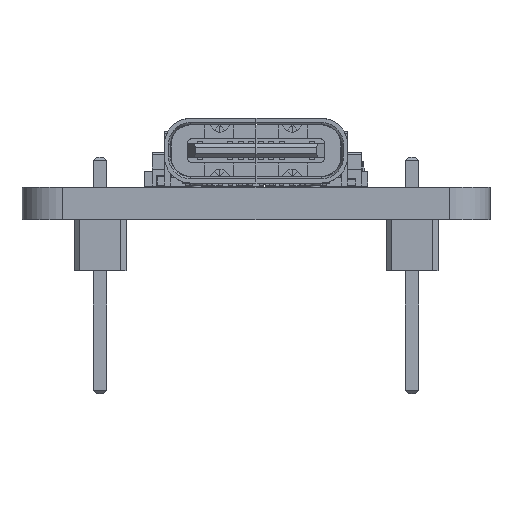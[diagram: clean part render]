
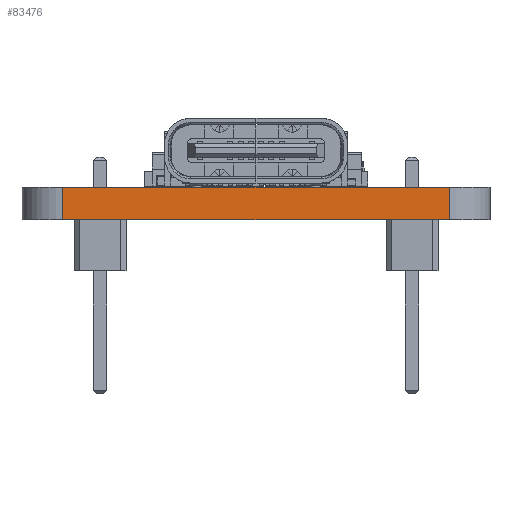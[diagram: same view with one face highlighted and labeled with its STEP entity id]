
A CAD part, left-side view. The second image highlights one B-rep face of the part: STEP entity #83476.
In plain terms, the highlighted planar face has unit normal (-1, 0, 0).
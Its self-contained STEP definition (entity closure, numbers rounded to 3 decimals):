
#82045 = VERTEX_POINT('',#82046);
#82046 = CARTESIAN_POINT('',(113.03,-92.17,0.));
#82053 = EDGE_CURVE('',#82054,#82045,#82056,.T.);
#82054 = VERTEX_POINT('',#82055);
#82055 = CARTESIAN_POINT('',(113.03,-111.03,0.));
#82056 = LINE('',#82057,#82058);
#82057 = CARTESIAN_POINT('',(113.03,-111.03,0.));
#82058 = VECTOR('',#82059,1.);
#82059 = DIRECTION('',(0.,1.,0.));
#82747 = VERTEX_POINT('',#82748);
#82748 = CARTESIAN_POINT('',(113.03,-92.17,1.6));
#82755 = EDGE_CURVE('',#82756,#82747,#82758,.T.);
#82756 = VERTEX_POINT('',#82757);
#82757 = CARTESIAN_POINT('',(113.03,-111.03,1.6));
#82758 = LINE('',#82759,#82760);
#82759 = CARTESIAN_POINT('',(113.03,-111.03,1.6));
#82760 = VECTOR('',#82761,1.);
#82761 = DIRECTION('',(0.,1.,0.));
#83446 = EDGE_CURVE('',#82045,#82747,#83447,.T.);
#83447 = LINE('',#83448,#83449);
#83448 = CARTESIAN_POINT('',(113.03,-92.17,0.));
#83449 = VECTOR('',#83450,1.);
#83450 = DIRECTION('',(0.,0.,1.));
#83476 = ADVANCED_FACE('',(#83477),#83488,.T.);
#83477 = FACE_BOUND('',#83478,.T.);
#83478 = EDGE_LOOP('',(#83479,#83485,#83486,#83487));
#83479 = ORIENTED_EDGE('',*,*,#83480,.T.);
#83480 = EDGE_CURVE('',#82054,#82756,#83481,.T.);
#83481 = LINE('',#83482,#83483);
#83482 = CARTESIAN_POINT('',(113.03,-111.03,0.));
#83483 = VECTOR('',#83484,1.);
#83484 = DIRECTION('',(0.,0.,1.));
#83485 = ORIENTED_EDGE('',*,*,#82755,.T.);
#83486 = ORIENTED_EDGE('',*,*,#83446,.F.);
#83487 = ORIENTED_EDGE('',*,*,#82053,.F.);
#83488 = PLANE('',#83489);
#83489 = AXIS2_PLACEMENT_3D('',#83490,#83491,#83492);
#83490 = CARTESIAN_POINT('',(113.03,-111.03,0.));
#83491 = DIRECTION('',(-1.,0.,0.));
#83492 = DIRECTION('',(0.,1.,0.));
